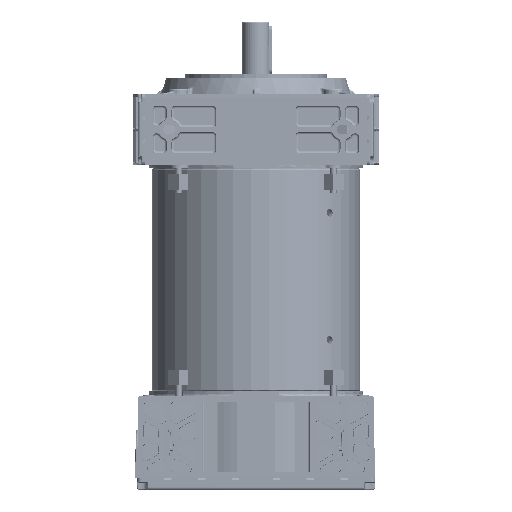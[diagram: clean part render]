
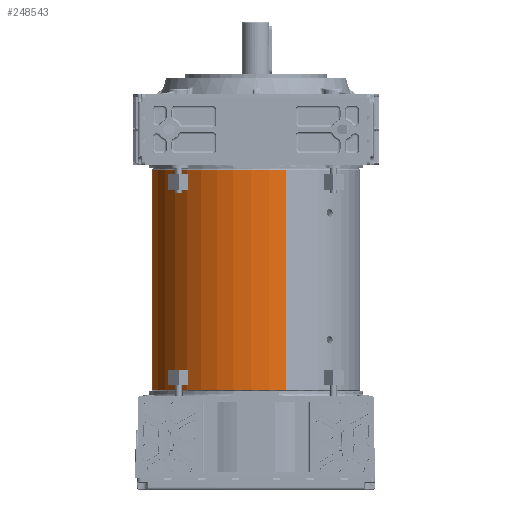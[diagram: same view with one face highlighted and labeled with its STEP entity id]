
A CAD part, front view. The second image highlights one B-rep face of the part: STEP entity #248543.
In plain terms, the highlighted cylindrical face has radius 131.5 mm (diameter 263 mm), a partial arc.
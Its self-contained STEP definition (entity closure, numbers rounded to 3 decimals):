
#14894 = CARTESIAN_POINT ( 'NONE',  ( -131.5, 0., 711.632 ) ) ;
#30349 = CARTESIAN_POINT ( 'NONE',  ( 0., 0., -9.5 ) ) ;
#50871 = CARTESIAN_POINT ( 'NONE',  ( 0., 0., 711.632 ) ) ;
#57046 = ORIENTED_EDGE ( 'NONE', *, *, #164613, .T. ) ;
#63683 = VERTEX_POINT ( 'NONE', #325393 ) ;
#66114 = CARTESIAN_POINT ( 'NONE',  ( 37.609, -126.007, -286.5 ) ) ;
#68608 = EDGE_CURVE ( 'NONE', #198396, #63683, #78407, .T. ) ;
#78407 = LINE ( 'NONE', #168204, #88041 ) ;
#81439 = DIRECTION ( 'NONE',  ( 0., 0., -1. ) ) ;
#86783 = ORIENTED_EDGE ( 'NONE', *, *, #129326, .T. ) ;
#88041 = VECTOR ( 'NONE', #255942, 1000. ) ;
#90487 = CYLINDRICAL_SURFACE ( 'NONE', #372567, 131.5 ) ;
#97566 = VECTOR ( 'NONE', #227508, 1000. ) ;
#98230 = AXIS2_PLACEMENT_3D ( 'NONE', #344528, #310033, #341921 ) ;
#111309 = CIRCLE ( 'NONE', #254257, 131.5 ) ;
#129326 = EDGE_CURVE ( 'NONE', #304117, #198396, #359110, .T. ) ;
#161055 = VERTEX_POINT ( 'NONE', #310249 ) ;
#164613 = EDGE_CURVE ( 'NONE', #161055, #304117, #353997, .T. ) ;
#168204 = CARTESIAN_POINT ( 'NONE',  ( 37.609, -126.007, -296. ) ) ;
#194388 = CARTESIAN_POINT ( 'NONE',  ( -131.5, 0., -286.5 ) ) ;
#198396 = VERTEX_POINT ( 'NONE', #66114 ) ;
#227508 = DIRECTION ( 'NONE',  ( 0., 0., -1. ) ) ;
#242967 = DIRECTION ( 'NONE',  ( 0., 0., -1. ) ) ;
#248543 = ADVANCED_FACE ( 'NONE', ( #261451 ), #90487, .T. ) ;
#254257 = AXIS2_PLACEMENT_3D ( 'NONE', #30349, #242967, #273423 ) ;
#255942 = DIRECTION ( 'NONE',  ( 0., 0., 1. ) ) ;
#261451 = FACE_OUTER_BOUND ( 'NONE', #365337, .T. ) ;
#265056 = ORIENTED_EDGE ( 'NONE', *, *, #385417, .T. ) ;
#273423 = DIRECTION ( 'NONE',  ( -1., 0., 0. ) ) ;
#304117 = VERTEX_POINT ( 'NONE', #194388 ) ;
#310033 = DIRECTION ( 'NONE',  ( 0., 0., 1. ) ) ;
#310249 = CARTESIAN_POINT ( 'NONE',  ( -131.5, 0., -9.5 ) ) ;
#325393 = CARTESIAN_POINT ( 'NONE',  ( 37.609, -126.007, -9.5 ) ) ;
#341921 = DIRECTION ( 'NONE',  ( 1., 0., 0. ) ) ;
#344528 = CARTESIAN_POINT ( 'NONE',  ( 0., 0., -286.5 ) ) ;
#353997 = LINE ( 'NONE', #14894, #97566 ) ;
#359110 = CIRCLE ( 'NONE', #98230, 131.5 ) ;
#365337 = EDGE_LOOP ( 'NONE', ( #265056, #57046, #86783, #381276 ) ) ;
#372567 = AXIS2_PLACEMENT_3D ( 'NONE', #50871, #81439, #379032 ) ;
#379032 = DIRECTION ( 'NONE',  ( -1., 0., 0. ) ) ;
#381276 = ORIENTED_EDGE ( 'NONE', *, *, #68608, .T. ) ;
#385417 = EDGE_CURVE ( 'NONE', #63683, #161055, #111309, .T. ) ;
